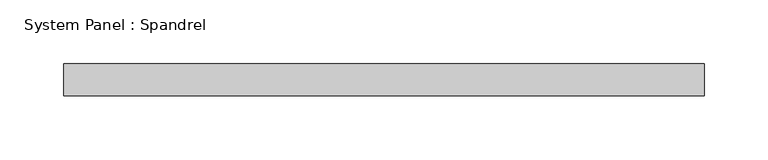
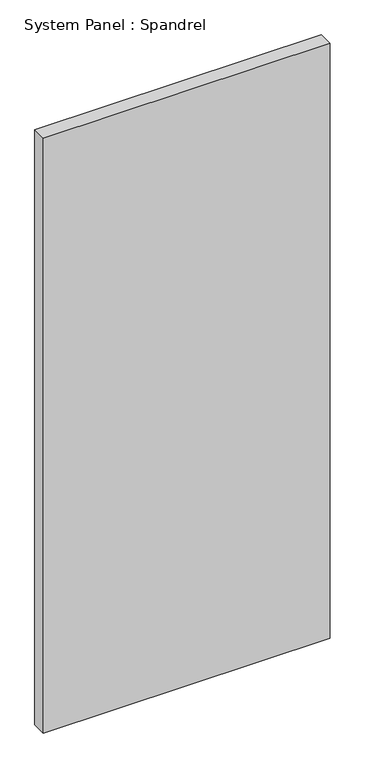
"""IFC4 building model written with IfcOpenShell, lengths in millimetres: plate geometry, System Panel : Spandrel."""

from ifc_helpers import new_model, si_unit, origin, origin_with_axes, place, context, project, spatial, polyline, outline, extrude, source, transform, mapped, element, save


def system_panel_spandrel_f16ed500(model_context):
    return source(origin(), model_context, "Body", "SweptSolid", [
        extrude(outline(polyline([(250.9999999, -25.0), (-250.9999999, -25.0), (-250.9999999, 0.0), (250.9999999, 0.0), (250.9999999, -25.0)])), origin_with_axes(), (0.0, 0.0, 1.0), 1100.0),
    ])


if __name__ == "__main__":
    model = new_model("IFC4")
    model_context = context("Model", 3, world=origin())
    ifc_project = project(units=[si_unit("LENGTHUNIT", "METRE", prefix="MILLI")], contexts=[model_context])
    site = spatial("IfcSite", under=ifc_project)
    building = spatial("IfcBuilding", under=site)
    placement = place(None, origin())
    system_panel_spandrel_shape = system_panel_spandrel_f16ed500(model_context)
    element("IfcPlate", 1, ObjectType="System Panel : Spandrel", at=placement, inside=building, context=model_context, shape_type="MappedRepresentation", body=[
        mapped(system_panel_spandrel_shape, transform((0.0, 0.0, 0.0), x_axis=(1.0, 0.0, 0.0), y_axis=(0.0, 1.0, 0.0), z_axis=(0.0, 0.0, 1.0))),
    ])
    save(model, "model.ifc")
